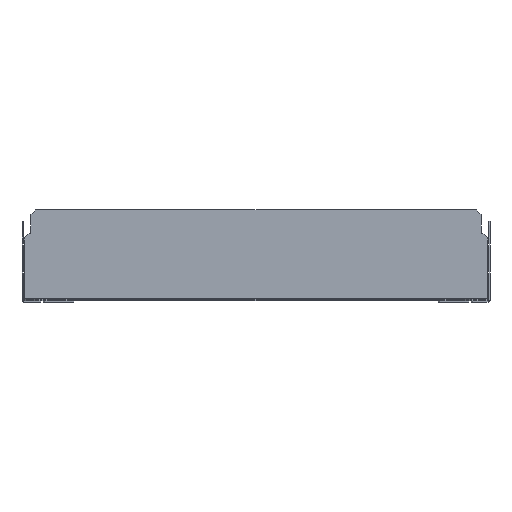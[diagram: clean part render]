
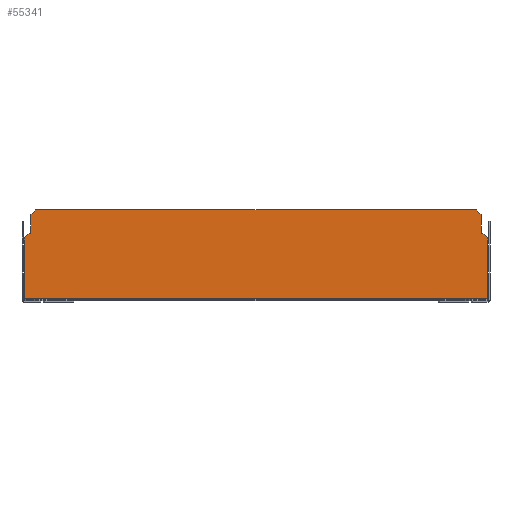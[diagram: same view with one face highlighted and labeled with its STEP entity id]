
A CAD part, front view. The second image highlights one B-rep face of the part: STEP entity #55341.
In plain terms, the highlighted planar face has unit normal (0, -1, 0).
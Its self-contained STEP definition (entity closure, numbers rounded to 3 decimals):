
#53426=CARTESIAN_POINT(' ',(247.5,-1.5,0.6));
#53427=VERTEX_POINT(' ',#53426);
#53441=CARTESIAN_POINT(' ',(247.5,-1.5,0.6));
#53446=DIRECTION(' ',(-1.,0.,0.));
#53451=VECTOR(' ',#53446,1.);
#53456=LINE('',#53441,#53451);
#53461=CARTESIAN_POINT(' ',(-247.5,-1.5,0.6));
#53462=VERTEX_POINT(' ',#53461);
#53466=EDGE_CURVE(' ',#53427,#53462,#53456,.T.);
#53606=CARTESIAN_POINT(' ',(247.5,-1.5,65.5));
#53607=VERTEX_POINT(' ',#53606);
#53621=CARTESIAN_POINT(' ',(247.5,-1.5,65.5));
#53626=DIRECTION(' ',(0.,0.,-1.));
#53631=VECTOR(' ',#53626,1.);
#53636=LINE('',#53621,#53631);
#53641=EDGE_CURVE(' ',#53607,#53427,#53636,.T.);
#54411=CARTESIAN_POINT(' ',(-247.5,-1.5,0.6));
#54416=DIRECTION(' ',(0.,0.,1.));
#54421=VECTOR(' ',#54416,1.);
#54426=LINE('',#54411,#54421);
#54431=CARTESIAN_POINT(' ',(-247.5,-1.5,65.5));
#54432=VERTEX_POINT(' ',#54431);
#54436=EDGE_CURVE(' ',#53462,#54432,#54426,.T.);
#54981=DIRECTION(' ',(0.,-1.,0.));
#54986=CARTESIAN_POINT(' ',(-247.5,-1.5,95.5));
#54991=DIRECTION(' ',(0.,0.,-1.));
#54996=AXIS2_PLACEMENT_3D(' ',#54986,#54981,#54991);
#55001=PLANE('NONE',#54996);
#55006=ORIENTED_EDGE(' ',*,*,#53641,.F.);
#55011=CARTESIAN_POINT(' ',(247.5,-1.5,65.5));
#55016=DIRECTION(' ',(-0.707,0.,0.707));
#55021=VECTOR(' ',#55016,1.);
#55026=LINE('',#55011,#55021);
#55031=CARTESIAN_POINT(' ',(242.5,-1.5,70.5));
#55032=VERTEX_POINT(' ',#55031);
#55036=EDGE_CURVE(' ',#53607,#55032,#55026,.T.);
#55041=ORIENTED_EDGE(' ',*,*,#55036,.T.);
#55046=CARTESIAN_POINT(' ',(240.5,-1.5,70.5));
#55051=DIRECTION(' ',(1.,0.,0.));
#55056=VECTOR(' ',#55051,1.);
#55061=LINE('',#55046,#55056);
#55066=CARTESIAN_POINT(' ',(240.5,-1.5,70.5));
#55067=VERTEX_POINT(' ',#55066);
#55071=EDGE_CURVE(' ',#55067,#55032,#55061,.T.);
#55076=ORIENTED_EDGE(' ',*,*,#55071,.F.);
#55081=CARTESIAN_POINT(' ',(240.5,-1.5,70.5));
#55086=DIRECTION(' ',(0.,0.,1.));
#55091=VECTOR(' ',#55086,1.);
#55096=LINE('',#55081,#55091);
#55101=CARTESIAN_POINT(' ',(240.5,-1.5,90.5));
#55102=VERTEX_POINT(' ',#55101);
#55106=EDGE_CURVE(' ',#55067,#55102,#55096,.T.);
#55111=ORIENTED_EDGE(' ',*,*,#55106,.T.);
#55116=CARTESIAN_POINT(' ',(240.5,-1.5,90.5));
#55121=DIRECTION(' ',(-0.707,0.,0.707));
#55126=VECTOR(' ',#55121,1.);
#55131=LINE('',#55116,#55126);
#55136=CARTESIAN_POINT(' ',(235.5,-1.5,95.5));
#55137=VERTEX_POINT(' ',#55136);
#55141=EDGE_CURVE(' ',#55102,#55137,#55131,.T.);
#55146=ORIENTED_EDGE(' ',*,*,#55141,.T.);
#55151=CARTESIAN_POINT(' ',(235.5,-1.5,95.5));
#55156=DIRECTION(' ',(-1.,0.,0.));
#55161=VECTOR(' ',#55156,1.);
#55166=LINE('',#55151,#55161);
#55171=CARTESIAN_POINT(' ',(-235.5,-1.5,95.5));
#55172=VERTEX_POINT(' ',#55171);
#55176=EDGE_CURVE(' ',#55137,#55172,#55166,.T.);
#55181=ORIENTED_EDGE(' ',*,*,#55176,.T.);
#55186=CARTESIAN_POINT(' ',(-235.5,-1.5,95.5));
#55191=DIRECTION(' ',(-0.707,0.,-0.707));
#55196=VECTOR(' ',#55191,1.);
#55201=LINE('',#55186,#55196);
#55206=CARTESIAN_POINT(' ',(-240.5,-1.5,90.5));
#55207=VERTEX_POINT(' ',#55206);
#55211=EDGE_CURVE(' ',#55172,#55207,#55201,.T.);
#55216=ORIENTED_EDGE(' ',*,*,#55211,.T.);
#55221=CARTESIAN_POINT(' ',(-240.5,-1.5,70.5));
#55226=DIRECTION(' ',(0.,0.,1.));
#55231=VECTOR(' ',#55226,1.);
#55236=LINE('',#55221,#55231);
#55241=CARTESIAN_POINT(' ',(-240.5,-1.5,70.5));
#55242=VERTEX_POINT(' ',#55241);
#55246=EDGE_CURVE(' ',#55242,#55207,#55236,.T.);
#55251=ORIENTED_EDGE(' ',*,*,#55246,.F.);
#55256=CARTESIAN_POINT(' ',(-240.5,-1.5,70.5));
#55261=DIRECTION(' ',(-1.,0.,0.));
#55266=VECTOR(' ',#55261,1.);
#55271=LINE('',#55256,#55266);
#55276=CARTESIAN_POINT(' ',(-242.5,-1.5,70.5));
#55277=VERTEX_POINT(' ',#55276);
#55281=EDGE_CURVE(' ',#55242,#55277,#55271,.T.);
#55286=ORIENTED_EDGE(' ',*,*,#55281,.T.);
#55291=CARTESIAN_POINT(' ',(-242.5,-1.5,70.5));
#55296=DIRECTION(' ',(-0.707,0.,-0.707));
#55301=VECTOR(' ',#55296,1.);
#55306=LINE('',#55291,#55301);
#55311=EDGE_CURVE(' ',#55277,#54432,#55306,.T.);
#55316=ORIENTED_EDGE(' ',*,*,#55311,.T.);
#55321=ORIENTED_EDGE(' ',*,*,#54436,.F.);
#55326=ORIENTED_EDGE(' ',*,*,#53466,.F.);
#55331=EDGE_LOOP(' ',(#55006,#55041,#55076,#55111,#55146,#55181,#55216,#55251,#55286,#55316,#55321,#55326));
#55336=FACE_OUTER_BOUND(' ',#55331,.T.);
#55341=ADVANCED_FACE('NONE',(#55336),#55001,.T.);
